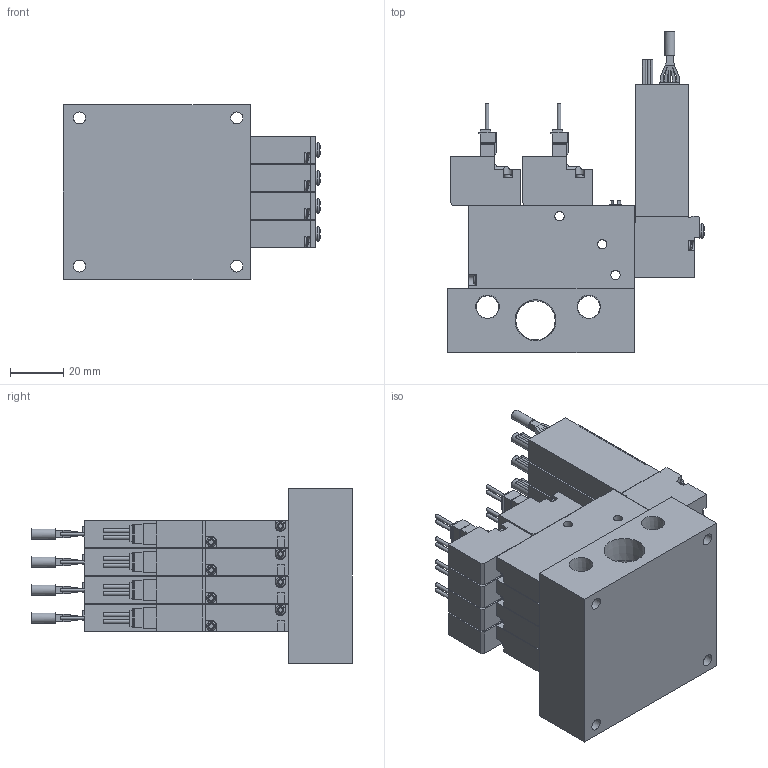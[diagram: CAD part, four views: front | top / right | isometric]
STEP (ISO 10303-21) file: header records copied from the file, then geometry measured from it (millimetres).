
FILE_DESCRIPTION(('STEP AP203'),'1');
FILE_NAME('BMPV42M10.10P.10PS5A(B)404.stp','2025-04-30T01:51:51',(' '),(' '),'Spatial InterOp 3D',' ',' ');
FILE_SCHEMA(('CONFIG_CONTROL_DESIGN'));
Length unit declared in the file: millimetre
Products named in the file (5): BMPV42M10.10P.10PS5A(B)404; VACUUM VALVE FUNCTION MPV42-A; VACUUM SENSOR MPV42-10; UNIT-MPV42; MPV42-M40R-1
Assembly tree (17 placements, depth 2):
  BMPV42M10.10P.10PS5A(B)404
    VACUUM VALVE FUNCTION MPV42-A  x8
    VACUUM SENSOR MPV42-10  x4
    UNIT-MPV42  x4
    MPV42-M40R-1
Bounding box: 96.35 x 120.3 x 65.5 mm (x, y, z)
Volume: 263027.1 mm3; surface area: 88118.6 mm2
Topology: 17 solids, 17 shells, 1571 faces, 4233 edges, 2808 vertices
Faces by surface type: plane 1222, cylinder 287, cone 22, sphere 20, torus 20
Full cylindrical faces by diameter (mm): 0.9 x16, 1.4 x16, 1.8 x4, 2.2 x8, 3 x16, 3.5 x44, 3.8 x4, 4.134 x8, 4.5 x4, 5 x4, 5.5 x4, 8.441 x2, 14.744 x1
Entity records: 9727 total; most frequent: CARTESIAN_POINT 1888, DIRECTION 1547, ORIENTED_EDGE 1490, EDGE_CURVE 745, LINE 551, VECTOR 551, VERTEX_POINT 521, AXIS2_PLACEMENT_3D 498
